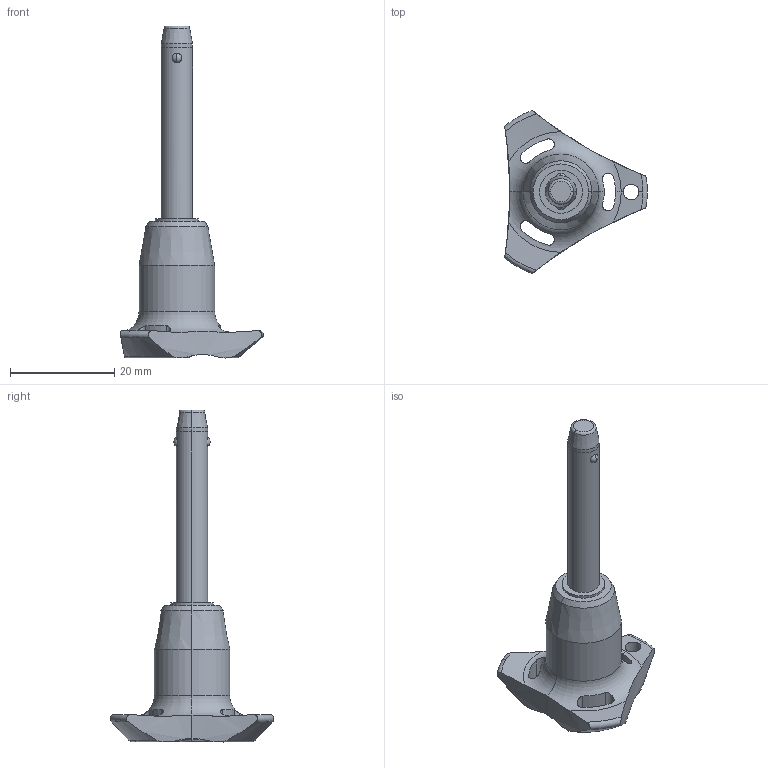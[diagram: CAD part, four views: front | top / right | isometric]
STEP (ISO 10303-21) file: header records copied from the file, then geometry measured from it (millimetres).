
FILE_DESCRIPTION (( 'STEP AP203' ), '1' );
FILE_NAME ('QR1716.M06-030-T.step', '2025-11-13T10:27:34', ( '' ), ( '' ), 'SwSTEP 2.0', 'SolidWorks 2019', '' );
FILE_SCHEMA (( 'CONFIG_CONTROL_DESIGN' ));
Length unit declared in the file: millimetre
Products named in the file (1): QR1716.M06-030-T
Bounding box: 27.4 x 31.31 x 63.7 mm (x, y, z)
Volume: 5814.2 mm3; surface area: 3118.4 mm2
Topology: 1 solids, 1 shells, 69 faces, 187 edges, 119 vertices
Faces by surface type: cylinder 32, cone 14, torus 12, sphere 6, plane 5
Entity records: 2789 total; most frequent: CARTESIAN_POINT 1010, ORIENTED_EDGE 374, DIRECTION 348, EDGE_CURVE 187, AXIS2_PLACEMENT_3D 155, VERTEX_POINT 119, CIRCLE 85, EDGE_LOOP 76
